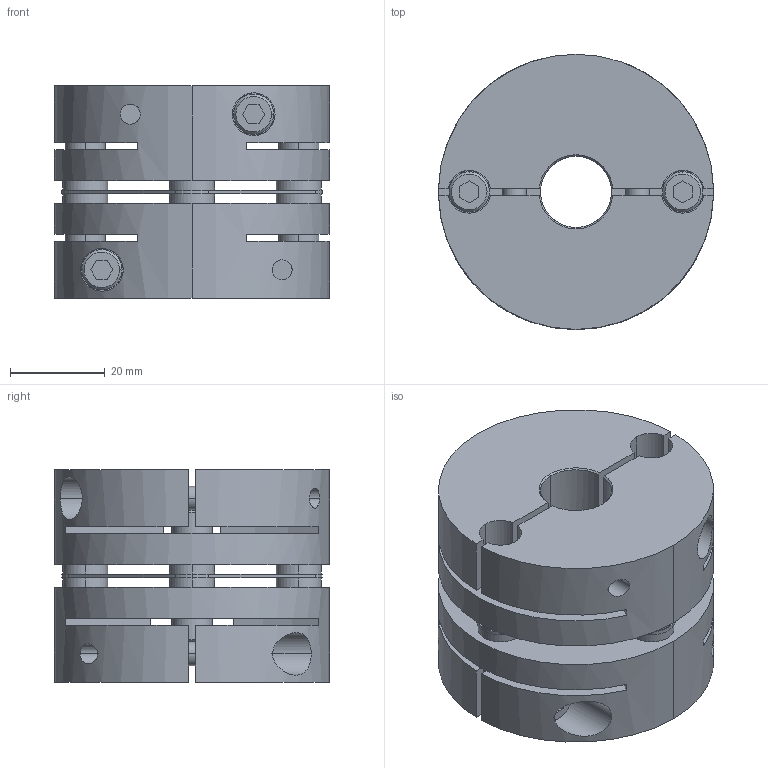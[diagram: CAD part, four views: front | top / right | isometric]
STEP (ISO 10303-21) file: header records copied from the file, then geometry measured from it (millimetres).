
FILE_DESCRIPTION((''),'2;1');
FILE_NAME('LAS-58C-15×20.stp','2011-08-09T15:26:32',(''),(''),'AutoCAD STEP 2000i','AutoCAD 2000i',', , ');
FILE_SCHEMA(('CONFIG_CONTROL_DESIGN'));
Length unit declared in the file: millimetre
Products named in the file (6): LAS-58C-12×19; 忣兜1; LA-5802-D19; LA-5802-D12-1; LA-5802-D12; LAS58-ITA
Assembly tree (5 placements, depth 2):
  LAS-58C-12×19
    忣兜1
    LA-5802-D19
    LA-5802-D12-1
    LA-5802-D12
    LAS58-ITA
Bounding box: 58 x 58 x 44.8 mm (x, y, z)
Volume: 86643.2 mm3; surface area: 33243.5 mm2
Topology: 1 solids, 1 shells, 238 faces, 618 edges, 404 vertices
Faces by surface type: plane 114, cylinder 96, cone 28
Entity records: 8213 total; most frequent: CARTESIAN_POINT 1988, DIRECTION 1316, ORIENTED_EDGE 1240, EDGE_CURVE 620, AXIS2_PLACEMENT_3D 484, VERTEX_POINT 404, VECTOR 348, LINE 348
